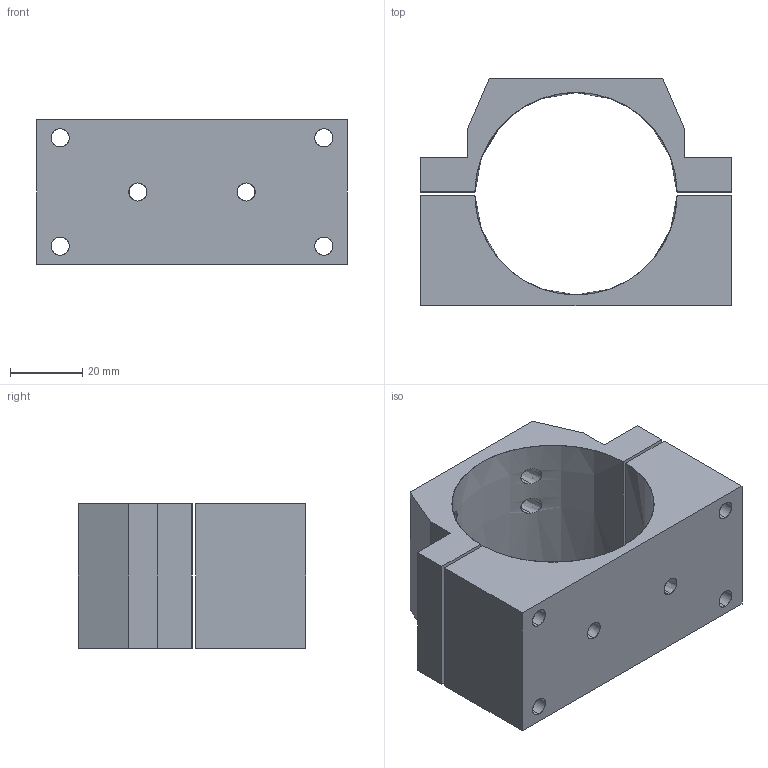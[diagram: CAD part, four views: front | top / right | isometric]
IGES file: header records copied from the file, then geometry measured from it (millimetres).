
Start section: SolidWorks IGES file using analytic representation for surfaces
Global section: file name: C:\Documents and Settings\CAD53\デスクトップ\IGES\N01915-303-1.IGS; native system: SolidWorks 2005 by SolidWorks Corporation; preprocessor: SolidWorks 2005 by SolidWorks Corporation; author: CAD53; date: 070530.095722; units: millimetre
Bounding box: 86 x 63 x 40 mm (x, y, z)
Surface area: 28131.4 mm2 (no closed solid volume)
Topology: 0 solids, 0 shells, 50 faces, 1384 edges, 1384 vertices
Faces by surface type: revolution 30, bspline 20
